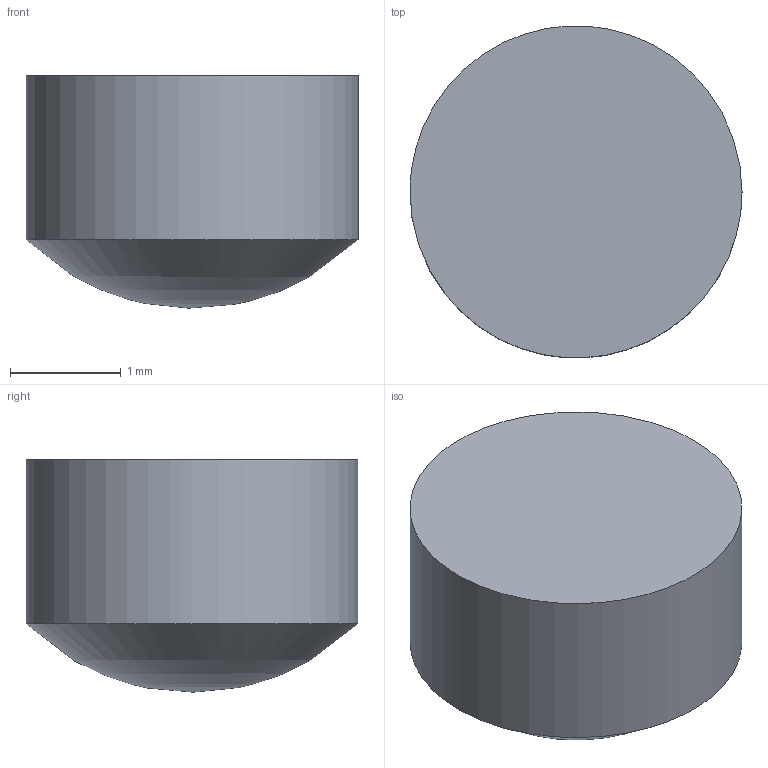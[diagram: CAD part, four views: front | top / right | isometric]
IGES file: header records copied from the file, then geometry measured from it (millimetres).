
Global section: file name: SLM-03-2.5P; native system: Autodesk Inventor 2015; preprocessor: unknown; author: r.sato; date: 20161219.183807; units: millimetre
Bounding box: 3 x 3 x 2.1 mm (x, y, z)
Volume: 12.8 mm3; surface area: 29.3 mm2
Topology: 1 solids, 1 shells, 3 faces, 5 edges, 4 vertices
Faces by surface type: bspline 3
